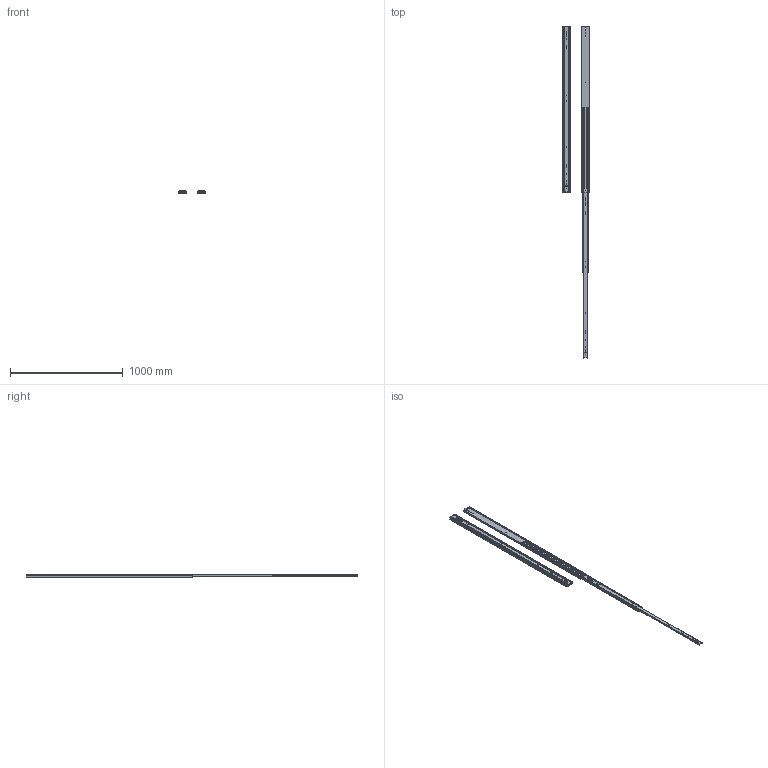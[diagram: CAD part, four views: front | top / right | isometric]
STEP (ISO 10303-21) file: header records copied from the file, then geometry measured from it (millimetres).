
FILE_DESCRIPTION((''),'2;1');
FILE_NAME('ASSEM1_1_2_3_4_5_6_7_8_9_10__26_ASM','2026-04-08T10:21:10',('T260078'),(''),'CREO PARAMETRIC BY PTC INC, 2025123','CREO PARAMETRIC BY PTC INC, 2025123','');
FILE_SCHEMA(('CONFIG_CONTROL_DESIGN','SHAPE_APPEARANCE_LAYERS_GROUPS'));
Length unit declared in the file: millimetre
Products named in the file (6): 76J01-58_X2_540B_X0_-M; 76J01-58_X2_540B_X0_-I; 76J01-58_X2_540B_X0_-O; 76J01-58_X2_540_X0__ASM; 76J01-58_X2_540B_X0_-_X2_5C5595_ASM; ASSEM1_1_2_3_4_5_6_7_8_9_10__26_ASM
Assembly tree (8 placements, depth 3):
  ASSEM1_1_2_3_4_5_6_7_8_9_10__26_ASM
    76J01-58_X2_540_X0__ASM
      76J01-58_X2_540B_X0_-M
      76J01-58_X2_540B_X0_-I
      76J01-58_X2_540B_X0_-O
    76J01-58_X2_540B_X0_-_X2_5C5595_ASM
      76J01-58_X2_540B_X0_-M
      76J01-58_X2_540B_X0_-I
      76J01-58_X2_540B_X0_-O
Bounding box: 245.44 x 2946.4 x 19.3 mm (x, y, z)
Volume: 1827342.9 mm3; surface area: 1627193.1 mm2
Topology: 6 solids, 6 shells, 380 faces, 1228 edges, 848 vertices
Faces by surface type: cylinder 212, plane 168
Entity records: 8392 total; most frequent: CARTESIAN_POINT 1335, DIRECTION 1245, ORIENTED_EDGE 1228, EDGE_CURVE 614, AXIS2_PLACEMENT_3D 444, VERTEX_POINT 424, VECTOR 357, LINE 357
